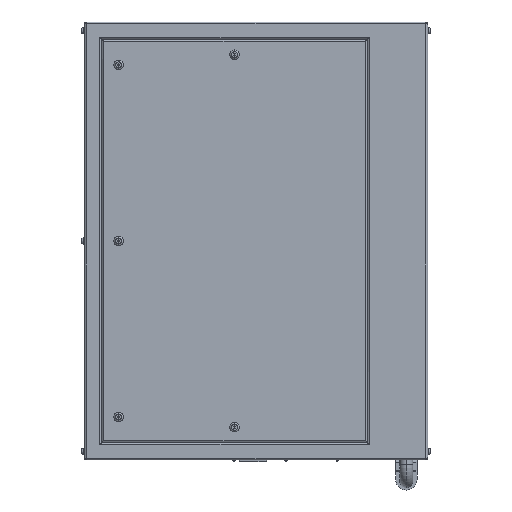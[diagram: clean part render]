
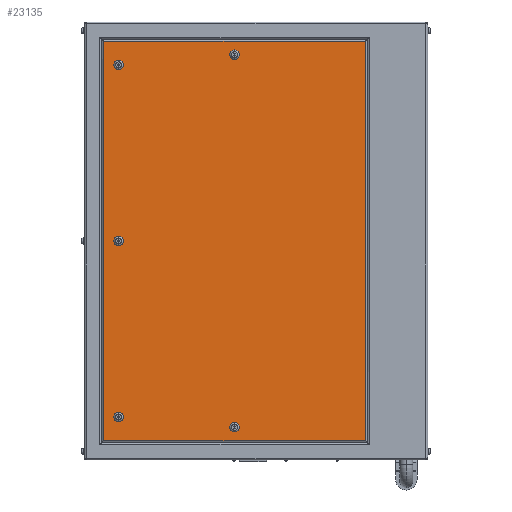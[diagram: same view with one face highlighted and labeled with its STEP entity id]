
A CAD part, left-side view. The second image highlights one B-rep face of the part: STEP entity #23135.
In plain terms, the highlighted planar face has unit normal (-1, 0, 0).
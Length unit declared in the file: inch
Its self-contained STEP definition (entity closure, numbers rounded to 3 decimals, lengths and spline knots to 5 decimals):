
#138 = ORIENTED_EDGE ( 'NONE', *, *, #14938, .T. ) ;
#152 = FACE_OUTER_BOUND ( 'NONE', #14361, .T. ) ;
#248 = DIRECTION ( 'NONE',  ( 0., 0., -1. ) ) ;
#646 = EDGE_CURVE ( 'NONE', #20252, #18545, #16802, .T. ) ;
#674 = DIRECTION ( 'NONE',  ( 0., -1., 0. ) ) ;
#797 = CARTESIAN_POINT ( 'NONE',  ( -11., 2.5, 22.24 ) ) ;
#810 = VERTEX_POINT ( 'NONE', #22446 ) ;
#846 = AXIS2_PLACEMENT_3D ( 'NONE', #19338, #2712, #3075 ) ;
#1095 = ORIENTED_EDGE ( 'NONE', *, *, #6697, .T. ) ;
#1203 = ORIENTED_EDGE ( 'NONE', *, *, #5248, .T. ) ;
#1312 = DIRECTION ( 'NONE',  ( 0., 0., 1. ) ) ;
#1703 = VERTEX_POINT ( 'NONE', #4386 ) ;
#1714 = CARTESIAN_POINT ( 'NONE',  ( -11., 20., -25.5 ) ) ;
#1986 = CARTESIAN_POINT ( 'NONE',  ( -11., 2.5, -21.14 ) ) ;
#2060 = ORIENTED_EDGE ( 'NONE', *, *, #20071, .T. ) ;
#2115 = DIRECTION ( 'NONE',  ( 0., 0., 1. ) ) ;
#2218 = ORIENTED_EDGE ( 'NONE', *, *, #3087, .T. ) ;
#2284 = VERTEX_POINT ( 'NONE', #7281 ) ;
#2295 = CARTESIAN_POINT ( 'NONE',  ( -11., 17.74, -25.5 ) ) ;
#2452 = DIRECTION ( 'NONE',  ( 1., 0., 0. ) ) ;
#2712 = DIRECTION ( 'NONE',  ( 1., 0., 0. ) ) ;
#3027 = CARTESIAN_POINT ( 'NONE',  ( -11., 16., 20.5 ) ) ;
#3048 = EDGE_CURVE ( 'NONE', #810, #4396, #20379, .T. ) ;
#3075 = DIRECTION ( 'NONE',  ( 0., 0., -1. ) ) ;
#3087 = EDGE_CURVE ( 'NONE', #2284, #16403, #12471, .T. ) ;
#3442 = VECTOR ( 'NONE', #14405, 39.37008 ) ;
#3988 = ORIENTED_EDGE ( 'NONE', *, *, #8187, .T. ) ;
#4232 = LINE ( 'NONE', #16834, #5252 ) ;
#4351 = VERTEX_POINT ( 'NONE', #9239 ) ;
#4386 = CARTESIAN_POINT ( 'NONE',  ( -11., -12.74, 23.24 ) ) ;
#4396 = VERTEX_POINT ( 'NONE', #18350 ) ;
#4518 = CARTESIAN_POINT ( 'NONE',  ( -11., 20., 23.24 ) ) ;
#4658 = AXIS2_PLACEMENT_3D ( 'NONE', #20678, #11346, #20446 ) ;
#4986 = EDGE_CURVE ( 'NONE', #11690, #18441, #4232, .T. ) ;
#5248 = EDGE_CURVE ( 'NONE', #6942, #4351, #18927, .T. ) ;
#5252 = VECTOR ( 'NONE', #674, 39.37008 ) ;
#5724 = EDGE_CURVE ( 'NONE', #1703, #20412, #13885, .T. ) ;
#5853 = LINE ( 'NONE', #2295, #22283 ) ;
#6072 = FACE_BOUND ( 'NONE', #7371, .T. ) ;
#6198 = EDGE_CURVE ( 'NONE', #16403, #2284, #20962, .T. ) ;
#6407 = AXIS2_PLACEMENT_3D ( 'NONE', #22839, #12067, #22722 ) ;
#6697 = EDGE_CURVE ( 'NONE', #18545, #20252, #8867, .T. ) ;
#6942 = VERTEX_POINT ( 'NONE', #12281 ) ;
#7182 = CARTESIAN_POINT ( 'NONE',  ( -11., -12.74, -25.5 ) ) ;
#7281 = CARTESIAN_POINT ( 'NONE',  ( -11., 2.5, 21.14 ) ) ;
#7317 = AXIS2_PLACEMENT_3D ( 'NONE', #10021, #9895, #22435 ) ;
#7371 = EDGE_LOOP ( 'NONE', ( #11736, #17095 ) ) ;
#7812 = DIRECTION ( 'NONE',  ( 0., 0., -1. ) ) ;
#8187 = EDGE_CURVE ( 'NONE', #21763, #11003, #9480, .T. ) ;
#8582 = EDGE_CURVE ( 'NONE', #18441, #1703, #23450, .T. ) ;
#8867 = CIRCLE ( 'NONE', #11897, 0.55 ) ;
#8925 = CARTESIAN_POINT ( 'NONE',  ( -11., -12.74, -23.24 ) ) ;
#8959 = DIRECTION ( 'NONE',  ( 0., 0., -1. ) ) ;
#9239 = CARTESIAN_POINT ( 'NONE',  ( -11., 16., 21.05 ) ) ;
#9480 = CIRCLE ( 'NONE', #16685, 0.55 ) ;
#9705 = DIRECTION ( 'NONE',  ( 0., 0., -1. ) ) ;
#9775 = DIRECTION ( 'NONE',  ( 0., 0., -1. ) ) ;
#9895 = DIRECTION ( 'NONE',  ( 1., 0., 0. ) ) ;
#9959 = CARTESIAN_POINT ( 'NONE',  ( -11., 2.5, 21.69 ) ) ;
#10021 = CARTESIAN_POINT ( 'NONE',  ( -11., 16., -20.5 ) ) ;
#10635 = EDGE_CURVE ( 'NONE', #4351, #6942, #23413, .T. ) ;
#10713 = VECTOR ( 'NONE', #17460, 39.37008 ) ;
#10956 = DIRECTION ( 'NONE',  ( 0., 0., -1. ) ) ;
#11003 = VERTEX_POINT ( 'NONE', #1986 ) ;
#11108 = EDGE_LOOP ( 'NONE', ( #1203, #13464 ) ) ;
#11346 = DIRECTION ( 'NONE',  ( 1., 0., 0. ) ) ;
#11606 = DIRECTION ( 'NONE',  ( 1., 0., 0. ) ) ;
#11673 = DIRECTION ( 'NONE',  ( 1., 0., 0. ) ) ;
#11690 = VERTEX_POINT ( 'NONE', #17629 ) ;
#11730 = CARTESIAN_POINT ( 'NONE',  ( -11., 16., 0. ) ) ;
#11736 = ORIENTED_EDGE ( 'NONE', *, *, #20620, .T. ) ;
#11897 = AXIS2_PLACEMENT_3D ( 'NONE', #19636, #21625, #8959 ) ;
#12067 = DIRECTION ( 'NONE',  ( 1., 0., 0. ) ) ;
#12139 = CARTESIAN_POINT ( 'NONE',  ( -11., 17.74, 23.24 ) ) ;
#12281 = CARTESIAN_POINT ( 'NONE',  ( -11., 16., 19.95 ) ) ;
#12327 = CARTESIAN_POINT ( 'NONE',  ( -11., 2.5, -22.24 ) ) ;
#12471 = CIRCLE ( 'NONE', #14705, 0.55 ) ;
#12574 = ORIENTED_EDGE ( 'NONE', *, *, #5724, .T. ) ;
#13464 = ORIENTED_EDGE ( 'NONE', *, *, #10635, .T. ) ;
#13885 = LINE ( 'NONE', #4518, #10713 ) ;
#14018 = AXIS2_PLACEMENT_3D ( 'NONE', #1714, #11673, #9775 ) ;
#14361 = EDGE_LOOP ( 'NONE', ( #17452, #23028, #12574, #138 ) ) ;
#14405 = DIRECTION ( 'NONE',  ( 0., 0., 1. ) ) ;
#14648 = PLANE ( 'NONE',  #14018 ) ;
#14705 = AXIS2_PLACEMENT_3D ( 'NONE', #9959, #2452, #9705 ) ;
#14938 = EDGE_CURVE ( 'NONE', #20412, #11690, #5853, .T. ) ;
#15078 = EDGE_LOOP ( 'NONE', ( #3988, #2060 ) ) ;
#16377 = CIRCLE ( 'NONE', #17522, 0.55 ) ;
#16394 = CIRCLE ( 'NONE', #846, 0.55 ) ;
#16403 = VERTEX_POINT ( 'NONE', #797 ) ;
#16622 = AXIS2_PLACEMENT_3D ( 'NONE', #11730, #11606, #7812 ) ;
#16685 = AXIS2_PLACEMENT_3D ( 'NONE', #20167, #16731, #2115 ) ;
#16731 = DIRECTION ( 'NONE',  ( 1., 0., 0. ) ) ;
#16802 = CIRCLE ( 'NONE', #7317, 0.55 ) ;
#16834 = CARTESIAN_POINT ( 'NONE',  ( -11., 20., -23.24 ) ) ;
#17095 = ORIENTED_EDGE ( 'NONE', *, *, #3048, .T. ) ;
#17260 = DIRECTION ( 'NONE',  ( 1., 0., 0. ) ) ;
#17452 = ORIENTED_EDGE ( 'NONE', *, *, #4986, .T. ) ;
#17460 = DIRECTION ( 'NONE',  ( 0., 1., 0. ) ) ;
#17505 = DIRECTION ( 'NONE',  ( 1., 0., 0. ) ) ;
#17522 = AXIS2_PLACEMENT_3D ( 'NONE', #17605, #17260, #1312 ) ;
#17605 = CARTESIAN_POINT ( 'NONE',  ( -11., 2.5, -21.69 ) ) ;
#17629 = CARTESIAN_POINT ( 'NONE',  ( -11., 17.74, -23.24 ) ) ;
#18350 = CARTESIAN_POINT ( 'NONE',  ( -11., 16., -0.55 ) ) ;
#18441 = VERTEX_POINT ( 'NONE', #8925 ) ;
#18545 = VERTEX_POINT ( 'NONE', #20628 ) ;
#18927 = CIRCLE ( 'NONE', #6407, 0.55 ) ;
#19338 = CARTESIAN_POINT ( 'NONE',  ( -11., 16., 0. ) ) ;
#19347 = EDGE_LOOP ( 'NONE', ( #19853, #1095 ) ) ;
#19636 = CARTESIAN_POINT ( 'NONE',  ( -11., 16., -20.5 ) ) ;
#19853 = ORIENTED_EDGE ( 'NONE', *, *, #646, .T. ) ;
#20071 = EDGE_CURVE ( 'NONE', #11003, #21763, #16377, .T. ) ;
#20167 = CARTESIAN_POINT ( 'NONE',  ( -11., 2.5, -21.69 ) ) ;
#20196 = CARTESIAN_POINT ( 'NONE',  ( -11., 16., -21.05 ) ) ;
#20252 = VERTEX_POINT ( 'NONE', #20196 ) ;
#20379 = CIRCLE ( 'NONE', #16622, 0.55 ) ;
#20412 = VERTEX_POINT ( 'NONE', #12139 ) ;
#20446 = DIRECTION ( 'NONE',  ( 0., 0., -1. ) ) ;
#20620 = EDGE_CURVE ( 'NONE', #4396, #810, #16394, .T. ) ;
#20628 = CARTESIAN_POINT ( 'NONE',  ( -11., 16., -19.95 ) ) ;
#20678 = CARTESIAN_POINT ( 'NONE',  ( -11., 2.5, 21.69 ) ) ;
#20962 = CIRCLE ( 'NONE', #4658, 0.55 ) ;
#21489 = EDGE_LOOP ( 'NONE', ( #2218, #22149 ) ) ;
#21625 = DIRECTION ( 'NONE',  ( 1., 0., 0. ) ) ;
#21648 = FACE_BOUND ( 'NONE', #11108, .T. ) ;
#21763 = VERTEX_POINT ( 'NONE', #12327 ) ;
#21764 = FACE_BOUND ( 'NONE', #19347, .T. ) ;
#22149 = ORIENTED_EDGE ( 'NONE', *, *, #6198, .T. ) ;
#22283 = VECTOR ( 'NONE', #248, 39.37008 ) ;
#22318 = FACE_BOUND ( 'NONE', #15078, .T. ) ;
#22435 = DIRECTION ( 'NONE',  ( 0., 0., -1. ) ) ;
#22443 = FACE_BOUND ( 'NONE', #21489, .T. ) ;
#22446 = CARTESIAN_POINT ( 'NONE',  ( -11., 16., 0.55 ) ) ;
#22722 = DIRECTION ( 'NONE',  ( 0., 0., -1. ) ) ;
#22839 = CARTESIAN_POINT ( 'NONE',  ( -11., 16., 20.5 ) ) ;
#23026 = AXIS2_PLACEMENT_3D ( 'NONE', #3027, #17505, #10956 ) ;
#23028 = ORIENTED_EDGE ( 'NONE', *, *, #8582, .T. ) ;
#23135 = ADVANCED_FACE ( 'NONE', ( #22318, #22443, #21764, #6072, #21648, #152 ), #14648, .F. ) ;
#23413 = CIRCLE ( 'NONE', #23026, 0.55 ) ;
#23450 = LINE ( 'NONE', #7182, #3442 ) ;
